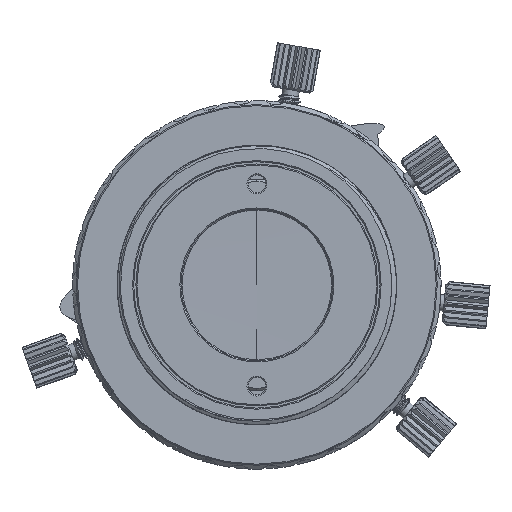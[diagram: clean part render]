
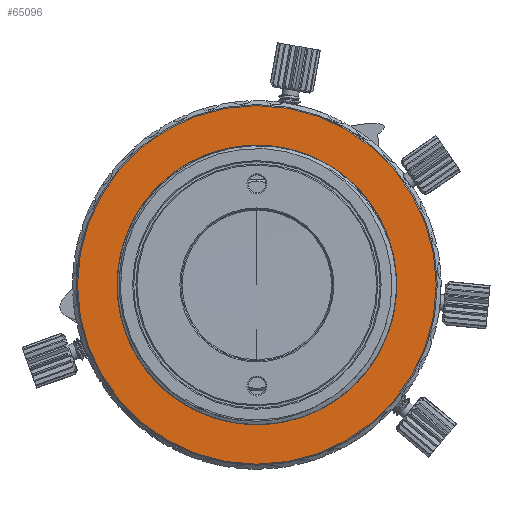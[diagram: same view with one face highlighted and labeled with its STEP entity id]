
A CAD part, front view. The second image highlights one B-rep face of the part: STEP entity #65096.
In plain terms, the highlighted planar face has unit normal (0, -1, 0).
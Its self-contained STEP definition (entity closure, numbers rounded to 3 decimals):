
#61258=CARTESIAN_POINT('',(0.,-1.,0.));
#61259=DIRECTION('',(0.,1.,0.));
#61260=DIRECTION('',(0.,0.,-1.));
#61261=AXIS2_PLACEMENT_3D('',#61258,#61259,#61260);
#61263=CARTESIAN_POINT('',(0.,-1.,
0.));
#61264=DIRECTION('',(0.,1.,0.));
#61265=DIRECTION('',(0.,0.,1.));
#61266=AXIS2_PLACEMENT_3D('',#61263,#61264,#61265);
#61268=CARTESIAN_POINT('',(0.,-1.,
0.));
#61269=DIRECTION('',(0.,1.,0.));
#61270=DIRECTION('',(1.,0.,0.));
#61271=AXIS2_PLACEMENT_3D('',#61268,#61269,#61270);
#61273=CARTESIAN_POINT('',(0.,-1.,0.));
#61274=DIRECTION('',(0.,-1.,0.));
#61275=DIRECTION('',(0.,0.,1.));
#61276=AXIS2_PLACEMENT_3D('',#61273,#61274,#61275);
#61278=CARTESIAN_POINT('',(0.,-1.,0.));
#61279=DIRECTION('',(0.,-1.,0.));
#61280=DIRECTION('',(0.,0.,-1.));
#61281=AXIS2_PLACEMENT_3D('',#61278,#61279,#61280);
#64837=CARTESIAN_POINT('',(0.,-1.,-16.3));
#64838=CARTESIAN_POINT('',(0.,-1.,16.3));
#64839=VERTEX_POINT('',#64837);
#64840=VERTEX_POINT('',#64838);
#64841=CARTESIAN_POINT('',(16.3,-1.,0.));
#64842=VERTEX_POINT('',#64841);
#64843=CARTESIAN_POINT('',(0.,-1.,-12.2));
#64845=VERTEX_POINT('',#64843);
#64847=CARTESIAN_POINT('',(0.,-1.,12.2));
#64848=VERTEX_POINT('',#64847);
#65077=CARTESIAN_POINT('',(-0.006,-1.,0.));
#65078=DIRECTION('',(0.,1.,0.));
#65079=DIRECTION('',(0.,0.,-1.));
#65080=AXIS2_PLACEMENT_3D('',#65077,#65078,#65079);
#65081=PLANE('',#65080);
#65083=ORIENTED_EDGE('',*,*,#65082,.T.);
#65085=ORIENTED_EDGE('',*,*,#65084,.T.);
#65087=ORIENTED_EDGE('',*,*,#65086,.T.);
#65088=EDGE_LOOP('',(#65083,#65085,#65087));
#65089=FACE_OUTER_BOUND('',#65088,.F.);
#65091=ORIENTED_EDGE('',*,*,#65090,.T.);
#65093=ORIENTED_EDGE('',*,*,#65092,.T.);
#65094=EDGE_LOOP('',(#65091,#65093));
#65095=FACE_BOUND('',#65094,.F.);
#61262=CIRCLE('',#61261,16.3);
#61267=CIRCLE('',#61266,16.3);
#61272=CIRCLE('',#61271,16.3);
#61277=CIRCLE('',#61276,12.2);
#61282=CIRCLE('',#61281,12.2);
#65082=EDGE_CURVE('',#64839,#64840,#61262,.T.);
#65084=EDGE_CURVE('',#64840,#64842,#61267,.T.);
#65086=EDGE_CURVE('',#64842,#64839,#61272,.T.);
#65090=EDGE_CURVE('',#64848,#64845,#61277,.T.);
#65092=EDGE_CURVE('',#64845,#64848,#61282,.T.);
#65096=ADVANCED_FACE('',(#65089,#65095),#65081,.F.);
